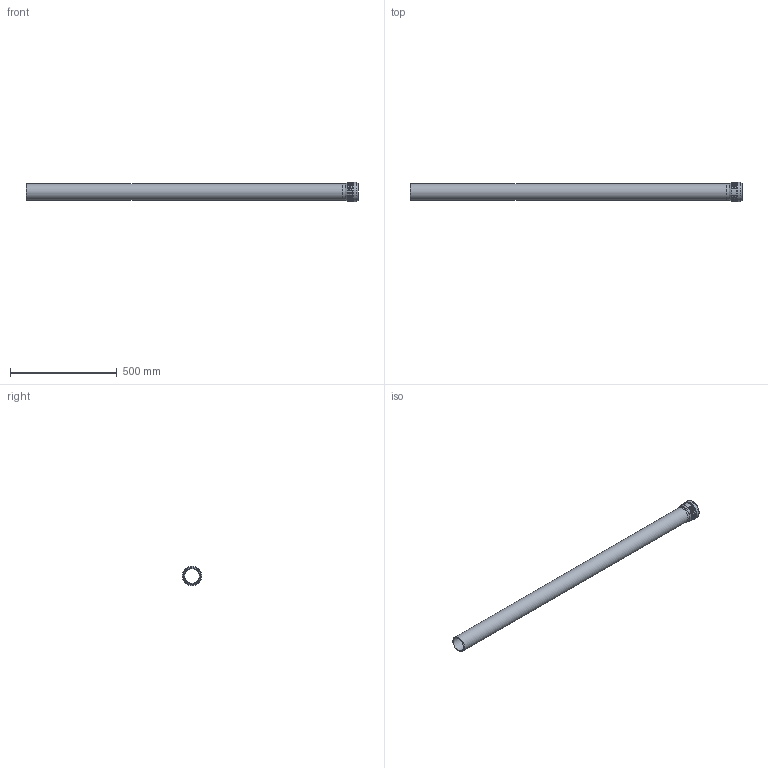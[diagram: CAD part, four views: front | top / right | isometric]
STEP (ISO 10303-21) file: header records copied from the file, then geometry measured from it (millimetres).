
FILE_DESCRIPTION(/* description */ (''),/* implementation_level */ '2;1');
FILE_NAME(/* name */ 'H:\Geberit-Teile\Export\PP_Rohr\stp\393305.stp',/* time_stamp */ '2017-02-13T16:06:29+01:00',/* author */ ('seihe2'),/* organization */ (''),/* preprocessor_version */ 'ST-DEVELOPER v15.2',/* originating_system */ 'Autodesk Inventor 2014',/* authorisation */ '');
FILE_SCHEMA (('AUTOMOTIVE_DESIGN { 1 0 10303 214 3 1 1 }'));
Length unit declared in the file: millimetre
Products named in the file (1): 393305
Bounding box: 1555.7 x 91 x 91 mm (x, y, z)
Volume: 1343390.4 mm3; surface area: 715365.6 mm2
Topology: 2 solids, 2 shells, 38 faces, 82 edges, 57 vertices
Faces by surface type: torus 16, cylinder 10, plane 8, cone 2, bspline 2
Full cylindrical faces by diameter (mm): 67.6 x2, 75.2 x2, 76 x1, 77.6 x1, 82.8 x1, 84.4 x1, 84.8 x1, 91 x1
Entity records: 2151 total; most frequent: CARTESIAN_POINT 1359, DIRECTION 132, ORIENTED_EDGE 130, EDGE_LOOP 68, AXIS2_PLACEMENT_3D 66, EDGE_CURVE 65, VERTEX_POINT 57, STYLED_ITEM 40
